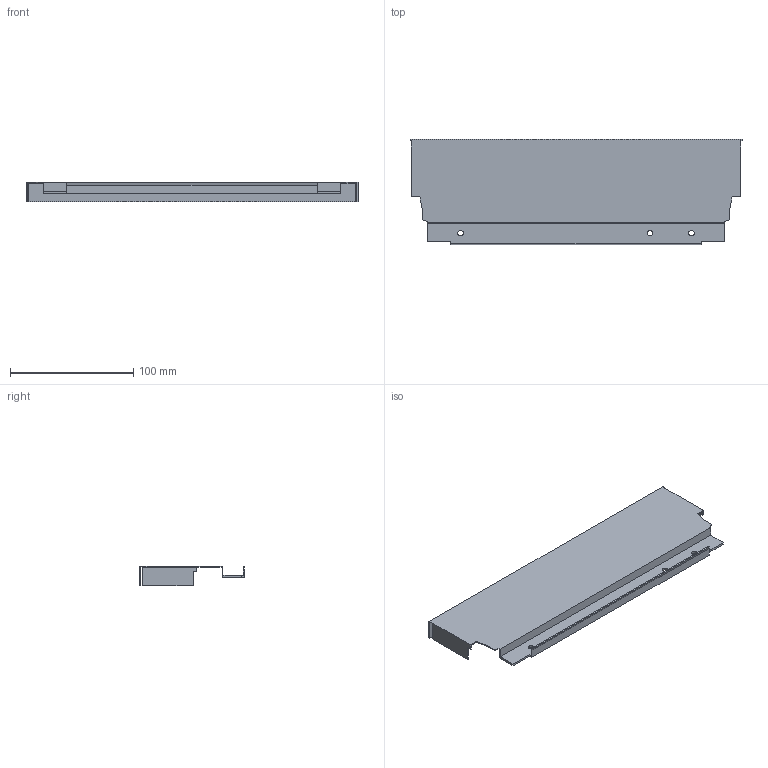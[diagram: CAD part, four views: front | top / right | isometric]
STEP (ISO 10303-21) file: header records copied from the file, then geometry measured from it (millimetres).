
FILE_DESCRIPTION (( 'STEP AP214' ), '1' );
FILE_NAME ('_DWD_XP Stahlrückwand_H86_KAB350_S16.step', '2010-07-08T12:09:53', ( 'grass' ), ( '' ), 'SwSTEP 2.0', 'SolidWorks 2010', '' );
FILE_SCHEMA (( 'AUTOMOTIVE_DESIGN' ));
Length unit declared in the file: millimetre
Products named in the file (1): _DWD_XP Stahlrückwand_H86_KAB350_S16
Bounding box: 269 x 85.79 x 16 mm (x, y, z)
Volume: 28133.2 mm3; surface area: 62024.1 mm2
Topology: 1 solids, 1 shells, 50 faces, 144 edges, 96 vertices
Faces by surface type: plane 44, cylinder 6
Entity records: 1666 total; most frequent: CARTESIAN_POINT 291, ORIENTED_EDGE 288, DIRECTION 258, EDGE_CURVE 144, VECTOR 132, LINE 132, VERTEX_POINT 96, AXIS2_PLACEMENT_3D 63
